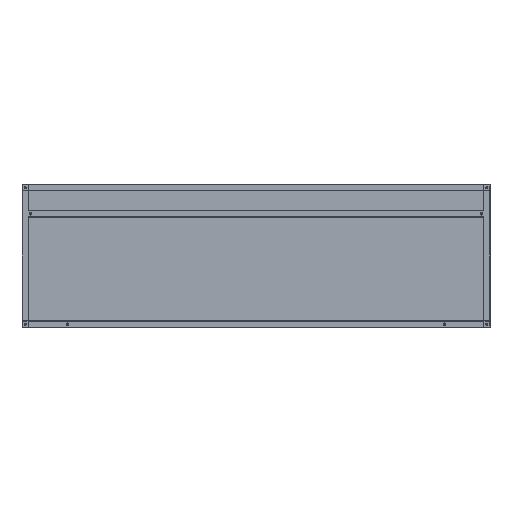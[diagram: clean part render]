
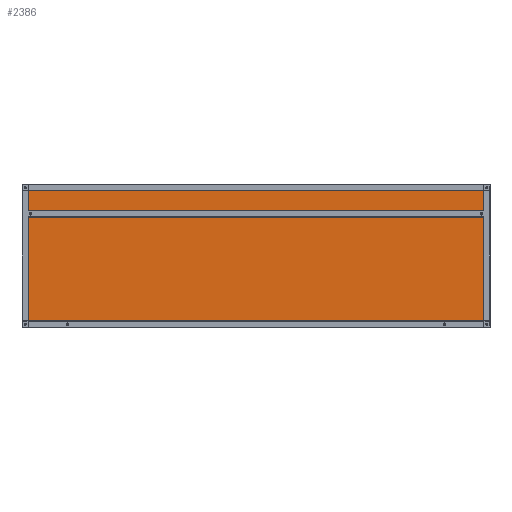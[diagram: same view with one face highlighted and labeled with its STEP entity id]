
A CAD part, front view. The second image highlights one B-rep face of the part: STEP entity #2386.
In plain terms, the highlighted planar face has unit normal (0, -1, 0) as drawn and (0, 0, -1) by its records, which use the part's own axes.
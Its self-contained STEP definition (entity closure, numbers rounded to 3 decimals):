
#86 = DIRECTION ( 'NONE',  ( 1., 0., 0. ) ) ;
#279 = VERTEX_POINT ( 'NONE', #5585 ) ;
#383 = EDGE_LOOP ( 'NONE', ( #5023, #4904, #5017, #4799 ) ) ;
#549 = VECTOR ( 'NONE', #86, 1000. ) ;
#665 = LINE ( 'NONE', #1693, #4059 ) ;
#845 = VERTEX_POINT ( 'NONE', #5598 ) ;
#981 = VERTEX_POINT ( 'NONE', #3158 ) ;
#1119 = LINE ( 'NONE', #2251, #549 ) ;
#1514 = EDGE_CURVE ( 'NONE', #279, #845, #2254, .T. ) ;
#1693 = CARTESIAN_POINT ( 'NONE',  ( 25., 275., 0. ) ) ;
#1729 = EDGE_CURVE ( 'NONE', #845, #4359, #1119, .T. ) ;
#2030 = EDGE_CURVE ( 'NONE', #4359, #981, #4447, .T. ) ;
#2131 = DIRECTION ( 'NONE',  ( 0., 0., 1. ) ) ;
#2247 = DIRECTION ( 'NONE',  ( -1., 0., 0. ) ) ;
#2251 = CARTESIAN_POINT ( 'NONE',  ( 25., -250., 0. ) ) ;
#2254 = LINE ( 'NONE', #2730, #3338 ) ;
#2386 = ADVANCED_FACE ( 'NONE', ( #5691 ), #3643, .F. ) ;
#2730 = CARTESIAN_POINT ( 'NONE',  ( 25., 275., 0. ) ) ;
#3158 = CARTESIAN_POINT ( 'NONE',  ( 1775., 275., 0. ) ) ;
#3188 = EDGE_CURVE ( 'NONE', #981, #279, #665, .T. ) ;
#3190 = CARTESIAN_POINT ( 'NONE',  ( 1775., -250., 0. ) ) ;
#3338 = VECTOR ( 'NONE', #3794, 1000. ) ;
#3643 = PLANE ( 'NONE',  #6335 ) ;
#3794 = DIRECTION ( 'NONE',  ( 0., -1., 0. ) ) ;
#4059 = VECTOR ( 'NONE', #2247, 1000. ) ;
#4359 = VERTEX_POINT ( 'NONE', #3190 ) ;
#4447 = LINE ( 'NONE', #5425, #5795 ) ;
#4799 = ORIENTED_EDGE ( 'NONE', *, *, #1729, .F. ) ;
#4904 = ORIENTED_EDGE ( 'NONE', *, *, #3188, .F. ) ;
#4918 = DIRECTION ( 'NONE',  ( 0., 1., 0. ) ) ;
#5017 = ORIENTED_EDGE ( 'NONE', *, *, #2030, .F. ) ;
#5023 = ORIENTED_EDGE ( 'NONE', *, *, #1514, .F. ) ;
#5183 = DIRECTION ( 'NONE',  ( 1., 0., 0. ) ) ;
#5425 = CARTESIAN_POINT ( 'NONE',  ( 1775., 275., 0. ) ) ;
#5585 = CARTESIAN_POINT ( 'NONE',  ( 25., 275., 0. ) ) ;
#5598 = CARTESIAN_POINT ( 'NONE',  ( 25., -250., 0. ) ) ;
#5691 = FACE_OUTER_BOUND ( 'NONE', #383, .T. ) ;
#5762 = CARTESIAN_POINT ( 'NONE',  ( 0., 0., 0. ) ) ;
#5795 = VECTOR ( 'NONE', #4918, 1000. ) ;
#6335 = AXIS2_PLACEMENT_3D ( 'NONE', #5762, #2131, #5183 ) ;
